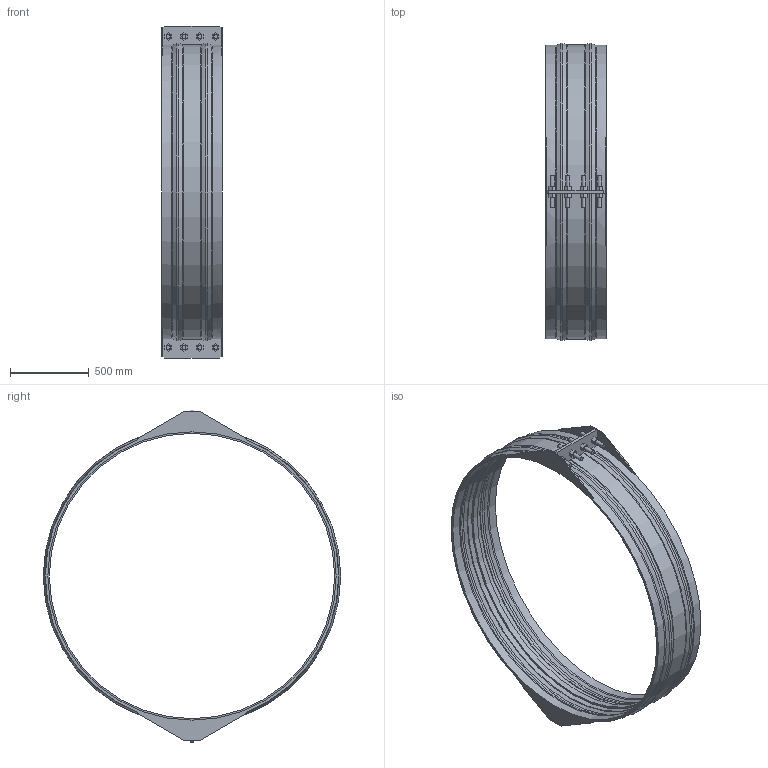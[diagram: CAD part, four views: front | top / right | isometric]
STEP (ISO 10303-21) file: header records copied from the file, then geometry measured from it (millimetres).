
FILE_DESCRIPTION(/* description */ ('VIC RESTRAINED COUPLING STYLE 233 (FLEX) (BRD)','CAx-IF Rec.Pracs.---Representation and Presentation of Product Manufacturing Information (PMI)---4.0---2014-10-13'),/* implementation_level */ '2;1');
FILE_NAME(/* name */ 'C:\Users\Vjadhav\Desktop\CAD for Inventor\Test for STEP\Vivek\Adsk_Inventor_Bolted Sleeve_iParts\STEP\Victaulic_VBSP_Coupling Flexible Restrained_Style 233 (BRD)\Victaulic_VBSP_Coupling Flexible Restrained_Style 233 (BRD)_200psi_72 (1800).stp',/* time_stamp */ '2020-09-24T12:31:00+05:00',/* author */ ('Vjadhav'),/* organization */ ('Victaulic'),/* preprocessor_version */ 'ST-DEVELOPER v17.2',/* originating_system */ 'Autodesk Inventor 2019',/* authorisation */ '');
FILE_SCHEMA (('AP242_MANAGED_MODEL_BASED_3D_ENGINEERING_MIM_LF { 1 0 10303 442 1 1 4 }'));
Length unit declared in the file: inch
Products named in the file (1): Style_233_Type_2_200psi-72.0
Bounding box: 381 x 1887.24 x 2105.66 mm (x, y, z)
Volume: 42174574 mm3; surface area: 5509014.1 mm2
Topology: 1 solids, 1 shells, 239 faces, 625 edges, 422 vertices
Faces by surface type: plane 166, cylinder 43, torus 18, cone 12
Full cylindrical faces by diameter (mm): 25.4 x16, 1809.75 x1, 1828.8 x2, 1835.15 x2
Entity records: 7896 total; most frequent: CARTESIAN_POINT 1496, DIRECTION 1259, ORIENTED_EDGE 1250, EDGE_CURVE 625, LINE 449, VECTOR 449, VERTEX_POINT 422, AXIS2_PLACEMENT_3D 405
